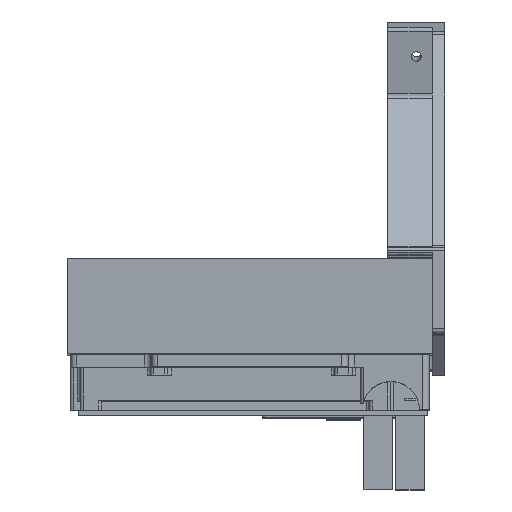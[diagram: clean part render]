
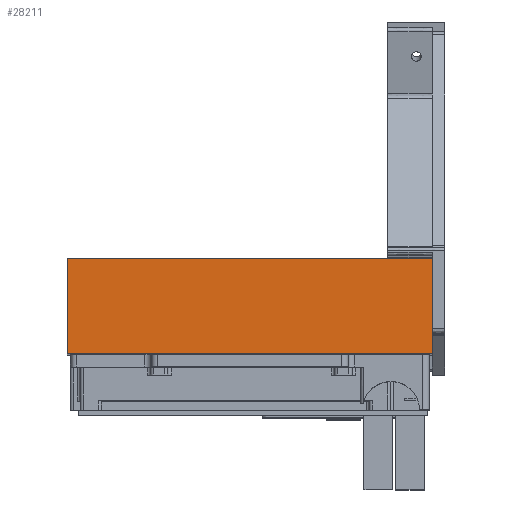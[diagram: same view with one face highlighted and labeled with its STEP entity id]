
A CAD part, top view. The second image highlights one B-rep face of the part: STEP entity #28211.
In plain terms, the highlighted planar face has unit normal (0, 0, 1) as drawn and (0, -1, 0) by its records, which use the part's own axes.
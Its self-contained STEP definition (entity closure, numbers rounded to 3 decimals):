
#1734=FACE_OUTER_BOUND('',#3285,.T.);
#3285=EDGE_LOOP('',(#18721,#18722,#18723,#18724));
#4942=LINE('',#39510,#8230);
#4949=LINE('',#39544,#8237);
#4952=LINE('',#39550,#8240);
#4955=LINE('',#39555,#8243);
#8230=VECTOR('',#32019,10.);
#8237=VECTOR('',#32060,10.);
#8240=VECTOR('',#32065,10.);
#8243=VECTOR('',#32070,10.);
#11511=VERTEX_POINT('',#39507);
#11512=VERTEX_POINT('',#39509);
#11522=VERTEX_POINT('',#39543);
#11524=VERTEX_POINT('',#39549);
#14303=EDGE_CURVE('',#11512,#11511,#4942,.T.);
#14318=EDGE_CURVE('',#11511,#11522,#4949,.T.);
#14321=EDGE_CURVE('',#11522,#11524,#4952,.T.);
#14324=EDGE_CURVE('',#11524,#11512,#4955,.T.);
#18721=ORIENTED_EDGE('',*,*,#14324,.T.);
#18722=ORIENTED_EDGE('',*,*,#14303,.T.);
#18723=ORIENTED_EDGE('',*,*,#14318,.T.);
#18724=ORIENTED_EDGE('',*,*,#14321,.T.);
#27161=PLANE('',#29822);
#28211=ADVANCED_FACE('',(#1734),#27161,.F.);
#29822=AXIS2_PLACEMENT_3D('',#39558,#32074,#32075);
#32019=DIRECTION('',(0.,0.,-1.));
#32060=DIRECTION('',(1.,0.,0.));
#32065=DIRECTION('',(0.,0.,1.));
#32070=DIRECTION('',(-1.,0.,0.));
#32074=DIRECTION('center_axis',(0.,1.,0.));
#32075=DIRECTION('ref_axis',(1.,0.,0.));
#39507=CARTESIAN_POINT('',(0.,0.,0.));
#39509=CARTESIAN_POINT('',(0.,0.,115.));
#39510=CARTESIAN_POINT('',(0.,0.,115.));
#39543=CARTESIAN_POINT('',(30.,0.,0.));
#39544=CARTESIAN_POINT('',(0.,0.,0.));
#39549=CARTESIAN_POINT('',(30.,0.,115.));
#39550=CARTESIAN_POINT('',(30.,0.,0.));
#39555=CARTESIAN_POINT('',(30.,0.,115.));
#39558=CARTESIAN_POINT('Origin',(15.,0.,57.5));
